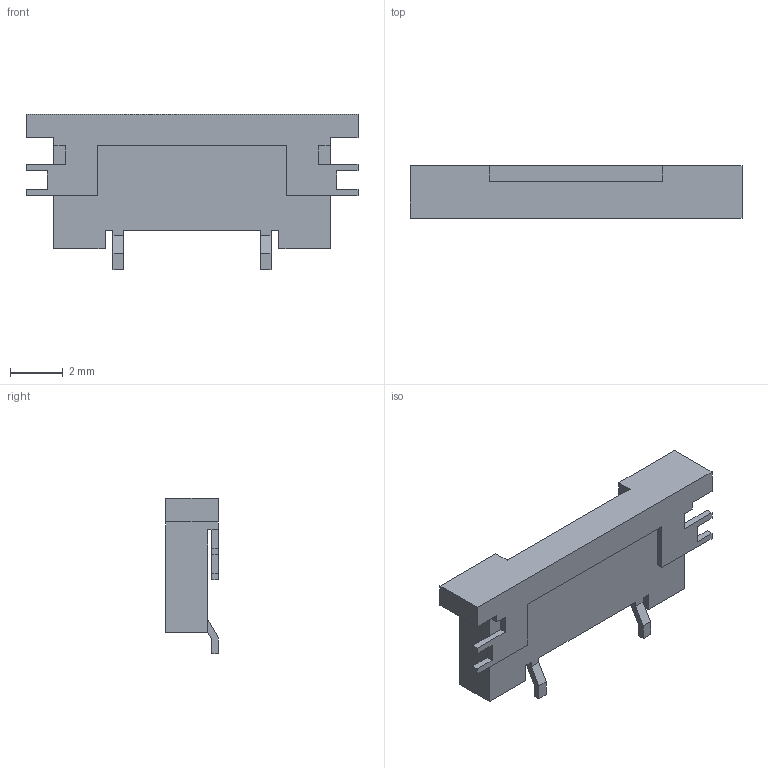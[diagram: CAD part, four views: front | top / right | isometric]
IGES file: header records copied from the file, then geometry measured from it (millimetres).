
Start section:  PTC IGES file: conn_il_fpr_u12s_hf_e3000_prt.igs
Global section: file name: conn_il_fpr_u12s_hf_e3000_prt.igs; native system: Pro/ENGINEER by Parametric Technology Corporation; preprocessor: 2000030; author: ECaille; organization: Unknown; date: 000803.091931; units: millimetre
Bounding box: 12.6 x 2 x 5.9 mm (x, y, z)
Surface area: 194.7 mm2 (no closed solid volume)
Topology: 0 solids, 0 shells, 56 faces, 554 edges, 784 vertices
Faces by surface type: bspline 56
